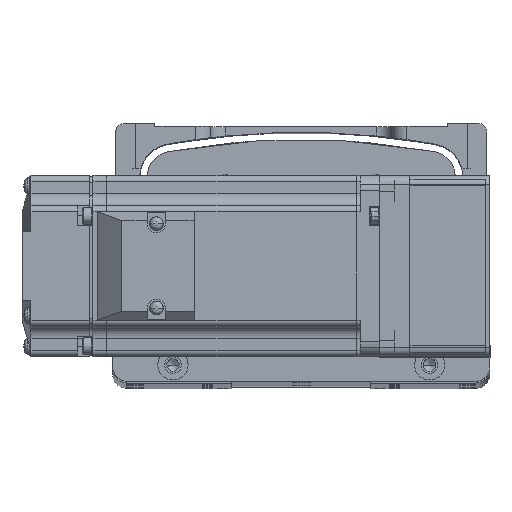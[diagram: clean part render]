
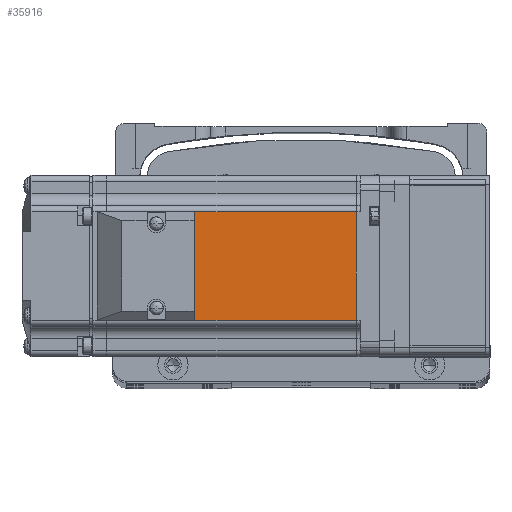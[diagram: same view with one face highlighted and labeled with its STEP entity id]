
A CAD part, top view. The second image highlights one B-rep face of the part: STEP entity #35916.
In plain terms, the highlighted planar face has unit normal (0, 0, 1) as drawn and (0, 1, 0) by its records, which use the part's own axes.
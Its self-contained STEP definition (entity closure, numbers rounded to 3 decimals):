
#82 = CARTESIAN_POINT ( 'NONE',  ( -7.75, 30., 0. ) ) ;
#359 = VERTEX_POINT ( 'NONE', #60729 ) ;
#5762 = VECTOR ( 'NONE', #25279, 1000. ) ;
#5970 = CARTESIAN_POINT ( 'NONE',  ( -7.75, 30., -18. ) ) ;
#6318 = EDGE_CURVE ( 'NONE', #67787, #38068, #20719, .T. ) ;
#8567 = ORIENTED_EDGE ( 'NONE', *, *, #6318, .F. ) ;
#9487 = LINE ( 'NONE', #65152, #24787 ) ;
#14054 = EDGE_CURVE ( 'NONE', #77026, #38068, #42468, .T. ) ;
#18058 = DIRECTION ( 'NONE',  ( 0., 1., 0. ) ) ;
#20719 = LINE ( 'NONE', #82, #62448 ) ;
#24787 = VECTOR ( 'NONE', #78260, 1000. ) ;
#25279 = DIRECTION ( 'NONE',  ( 1., 0., 0. ) ) ;
#25835 = ORIENTED_EDGE ( 'NONE', *, *, #75388, .T. ) ;
#30037 = AXIS2_PLACEMENT_3D ( 'NONE', #57038, #18058, #63586 ) ;
#35916 = ADVANCED_FACE ( 'NONE', ( #40795 ), #63313, .T. ) ;
#38068 = VERTEX_POINT ( 'NONE', #62162 ) ;
#38430 = DIRECTION ( 'NONE',  ( -1., 0., 0. ) ) ;
#40795 = FACE_OUTER_BOUND ( 'NONE', #83176, .T. ) ;
#42468 = LINE ( 'NONE', #83614, #5762 ) ;
#57038 = CARTESIAN_POINT ( 'NONE',  ( -6.5, 30., 25. ) ) ;
#58206 = VECTOR ( 'NONE', #38430, 1000. ) ;
#60729 = CARTESIAN_POINT ( 'NONE',  ( -90.45, 30., -18. ) ) ;
#62162 = CARTESIAN_POINT ( 'NONE',  ( -7.75, 30., 18. ) ) ;
#62448 = VECTOR ( 'NONE', #71567, 1000. ) ;
#63313 = PLANE ( 'NONE',  #30037 ) ;
#63586 = DIRECTION ( 'NONE',  ( 0., 0., 1. ) ) ;
#65152 = CARTESIAN_POINT ( 'NONE',  ( -90.45, 30., 0. ) ) ;
#65495 = ORIENTED_EDGE ( 'NONE', *, *, #70767, .T. ) ;
#67787 = VERTEX_POINT ( 'NONE', #5970 ) ;
#70767 = EDGE_CURVE ( 'NONE', #67787, #359, #75518, .T. ) ;
#71567 = DIRECTION ( 'NONE',  ( 0., 0., 1. ) ) ;
#75388 = EDGE_CURVE ( 'NONE', #359, #77026, #9487, .T. ) ;
#75518 = LINE ( 'NONE', #83668, #58206 ) ;
#77026 = VERTEX_POINT ( 'NONE', #80536 ) ;
#78260 = DIRECTION ( 'NONE',  ( 0., 0., 1. ) ) ;
#80536 = CARTESIAN_POINT ( 'NONE',  ( -90.45, 30., 18. ) ) ;
#83176 = EDGE_LOOP ( 'NONE', ( #8567, #65495, #25835, #84106 ) ) ;
#83614 = CARTESIAN_POINT ( 'NONE',  ( -6.5, 30., 18. ) ) ;
#83668 = CARTESIAN_POINT ( 'NONE',  ( -6.5, 30., -18. ) ) ;
#84106 = ORIENTED_EDGE ( 'NONE', *, *, #14054, .T. ) ;
